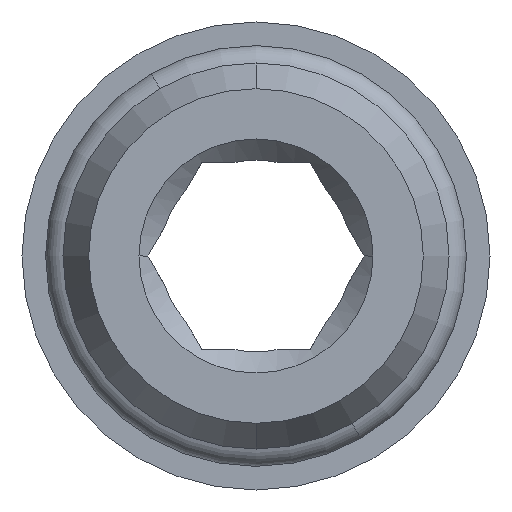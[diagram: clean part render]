
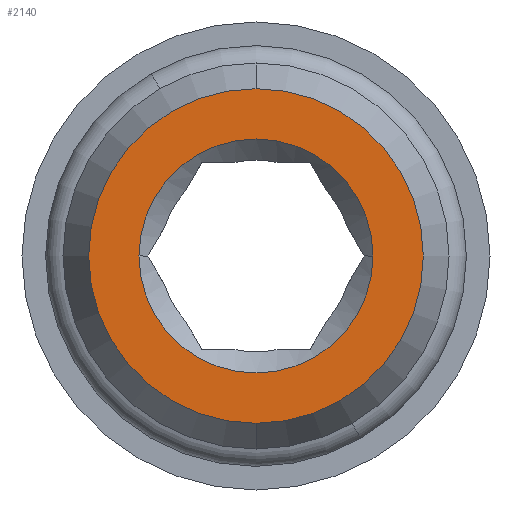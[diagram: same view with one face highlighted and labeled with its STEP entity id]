
A CAD part, front view. The second image highlights one B-rep face of the part: STEP entity #2140.
In plain terms, the highlighted planar face has unit normal (0, -1, 0).
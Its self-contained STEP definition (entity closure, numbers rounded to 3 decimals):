
#150 = DIRECTION ( 'NONE',  ( 0., 0., -1. ) ) ;
#182 = CARTESIAN_POINT ( 'NONE',  ( 0., 0., 7.15 ) ) ;
#229 = AXIS2_PLACEMENT_3D ( 'NONE', #1945, #1644, #150 ) ;
#335 = CARTESIAN_POINT ( 'NONE',  ( 5., 0., 0. ) ) ;
#522 = AXIS2_PLACEMENT_3D ( 'NONE', #3233, #1680, #531 ) ;
#531 = DIRECTION ( 'NONE',  ( 1., 0., 0. ) ) ;
#605 = CIRCLE ( 'NONE', #229, 7.15 ) ;
#869 = EDGE_LOOP ( 'NONE', ( #1825, #1003 ) ) ;
#877 = ORIENTED_EDGE ( 'NONE', *, *, #3195, .F. ) ;
#1003 = ORIENTED_EDGE ( 'NONE', *, *, #3613, .T. ) ;
#1016 = VERTEX_POINT ( 'NONE', #182 ) ;
#1220 = DIRECTION ( 'NONE',  ( 0., -1., 0. ) ) ;
#1306 = FACE_BOUND ( 'NONE', #3610, .T. ) ;
#1332 = DIRECTION ( 'NONE',  ( 1., 0., 0. ) ) ;
#1363 = CARTESIAN_POINT ( 'NONE',  ( -5., 0., 0. ) ) ;
#1364 = EDGE_CURVE ( 'NONE', #1016, #2445, #1485, .T. ) ;
#1464 = DIRECTION ( 'NONE',  ( 0., -1., 0. ) ) ;
#1483 = CARTESIAN_POINT ( 'NONE',  ( 0., 0., 0. ) ) ;
#1485 = CIRCLE ( 'NONE', #3490, 7.15 ) ;
#1625 = PLANE ( 'NONE',  #2532 ) ;
#1644 = DIRECTION ( 'NONE',  ( 0., -1., 0. ) ) ;
#1680 = DIRECTION ( 'NONE',  ( 0., -1., 0. ) ) ;
#1825 = ORIENTED_EDGE ( 'NONE', *, *, #1364, .T. ) ;
#1913 = CIRCLE ( 'NONE', #522, 5. ) ;
#1945 = CARTESIAN_POINT ( 'NONE',  ( 0., 0., 0. ) ) ;
#1976 = CARTESIAN_POINT ( 'NONE',  ( 0., 0., -7.15 ) ) ;
#2007 = DIRECTION ( 'NONE',  ( 0., 0., -1. ) ) ;
#2080 = DIRECTION ( 'NONE',  ( 0., 0., -1. ) ) ;
#2140 = ADVANCED_FACE ( 'NONE', ( #1306, #2500 ), #1625, .T. ) ;
#2285 = DIRECTION ( 'NONE',  ( 0., -1., 0. ) ) ;
#2376 = CARTESIAN_POINT ( 'NONE',  ( 0., 0., 0. ) ) ;
#2384 = VERTEX_POINT ( 'NONE', #335 ) ;
#2445 = VERTEX_POINT ( 'NONE', #1976 ) ;
#2470 = CIRCLE ( 'NONE', #2726, 5. ) ;
#2500 = FACE_OUTER_BOUND ( 'NONE', #869, .T. ) ;
#2532 = AXIS2_PLACEMENT_3D ( 'NONE', #2376, #1464, #2007 ) ;
#2583 = EDGE_CURVE ( 'NONE', #2384, #3734, #1913, .T. ) ;
#2726 = AXIS2_PLACEMENT_3D ( 'NONE', #3751, #2285, #1332 ) ;
#2982 = ORIENTED_EDGE ( 'NONE', *, *, #2583, .F. ) ;
#3195 = EDGE_CURVE ( 'NONE', #3734, #2384, #2470, .T. ) ;
#3233 = CARTESIAN_POINT ( 'NONE',  ( 0., 0., 0. ) ) ;
#3490 = AXIS2_PLACEMENT_3D ( 'NONE', #1483, #1220, #2080 ) ;
#3610 = EDGE_LOOP ( 'NONE', ( #2982, #877 ) ) ;
#3613 = EDGE_CURVE ( 'NONE', #2445, #1016, #605, .T. ) ;
#3734 = VERTEX_POINT ( 'NONE', #1363 ) ;
#3751 = CARTESIAN_POINT ( 'NONE',  ( 0., 0., 0. ) ) ;
